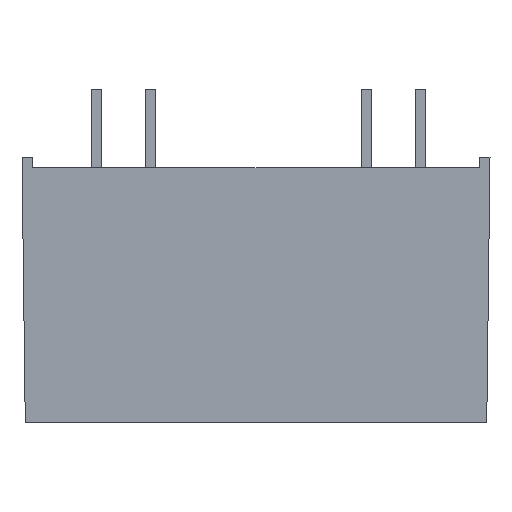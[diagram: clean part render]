
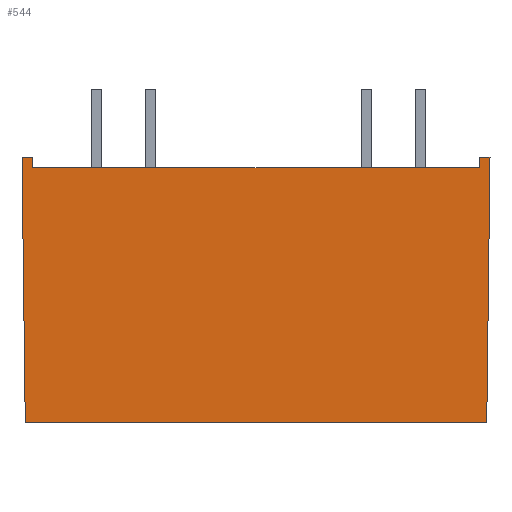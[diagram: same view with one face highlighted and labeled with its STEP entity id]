
A CAD part, front view. The second image highlights one B-rep face of the part: STEP entity #544.
In plain terms, the highlighted planar face has unit normal (0, -1, -0.012).
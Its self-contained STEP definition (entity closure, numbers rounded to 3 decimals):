
#42=FACE_OUTER_BOUND($,#76,.T.);
#76=EDGE_LOOP($,(#461,#462,#463,#464,#465,#466,#467,#468));
#132=LINE($,#825,#204);
#133=LINE($,#828,#205);
#136=LINE($,#834,#208);
#141=LINE($,#843,#213);
#142=LINE($,#846,#214);
#145=LINE($,#852,#217);
#146=LINE($,#854,#218);
#147=LINE($,#855,#219);
#204=VECTOR($,#677,0.5);
#205=VECTOR($,#680,20.986);
#208=VECTOR($,#685,0.5);
#213=VECTOR($,#692,0.5);
#214=VECTOR($,#695,0.5);
#217=VECTOR($,#700,12.502);
#218=VECTOR($,#701,21.695);
#219=VECTOR($,#702,12.502);
#258=VERTEX_POINT($,#819);
#260=VERTEX_POINT($,#823);
#261=VERTEX_POINT($,#827);
#263=VERTEX_POINT($,#833);
#266=VERTEX_POINT($,#841);
#267=VERTEX_POINT($,#845);
#269=VERTEX_POINT($,#851);
#270=VERTEX_POINT($,#853);
#324=EDGE_CURVE($,#258,#260,#132,.T.);
#325=EDGE_CURVE($,#261,#258,#133,.T.);
#328=EDGE_CURVE($,#263,#261,#136,.T.);
#333=EDGE_CURVE($,#260,#266,#141,.T.);
#334=EDGE_CURVE($,#267,#263,#142,.T.);
#337=EDGE_CURVE($,#269,#266,#145,.F.);
#338=EDGE_CURVE($,#269,#270,#146,.F.);
#339=EDGE_CURVE($,#270,#267,#147,.T.);
#461=ORIENTED_EDGE($,*,*,#328,.T.);
#462=ORIENTED_EDGE($,*,*,#325,.T.);
#463=ORIENTED_EDGE($,*,*,#324,.T.);
#464=ORIENTED_EDGE($,*,*,#333,.T.);
#465=ORIENTED_EDGE($,*,*,#337,.F.);
#466=ORIENTED_EDGE($,*,*,#338,.T.);
#467=ORIENTED_EDGE($,*,*,#339,.T.);
#468=ORIENTED_EDGE($,*,*,#334,.T.);
#514=PLANE($,#577);
#544=ADVANCED_FACE($,(#42),#514,.T.);
#577=AXIS2_PLACEMENT_3D($,#850,#698,#699);
#677=DIRECTION($,(-0.014,-0.012,1.));
#680=DIRECTION($,(-1.,0.,0.));
#685=DIRECTION($,(-0.014,0.012,-1.));
#692=DIRECTION($,(-1.,0.,0.));
#695=DIRECTION($,(-1.,0.,0.));
#698=DIRECTION('center_axis',(0.,-1.,
-0.012));
#699=DIRECTION('ref_axis',(0.,0.012,-1.));
#700=DIRECTION($,(0.012,0.012,-1.));
#701=DIRECTION($,(-1.,0.,0.));
#702=DIRECTION($,(0.012,-0.012,1.));
#819=CARTESIAN_POINT('',(-10.493,-3.944,12.));
#823=CARTESIAN_POINT('',(-10.5,-3.95,12.5));
#825=CARTESIAN_POINT($,(-10.41,-3.871,6.053));
#827=CARTESIAN_POINT('',(10.493,-3.944,12.));
#828=CARTESIAN_POINT($,(5.5,-3.944,12.));
#833=CARTESIAN_POINT('',(10.5,-3.95,12.5));
#834=CARTESIAN_POINT($,(10.413,-3.874,6.255));
#841=CARTESIAN_POINT('',(-11.,-3.95,12.5));
#843=CARTESIAN_POINT($,(-11.,-3.95,12.5));
#845=CARTESIAN_POINT('',(11.,-3.95,12.5));
#846=CARTESIAN_POINT($,(-11.,-3.95,12.5));
#850=CARTESIAN_POINT('Origin',(11.,-3.797,0.001));
#851=CARTESIAN_POINT('',(-10.847,-3.797,0.));
#852=CARTESIAN_POINT($,(-10.846,-3.796,-0.132));
#853=CARTESIAN_POINT('',(10.847,-3.797,0.));
#854=CARTESIAN_POINT($,(5.5,-3.797,0.));
#855=CARTESIAN_POINT($,(10.847,-3.797,-0.045));
